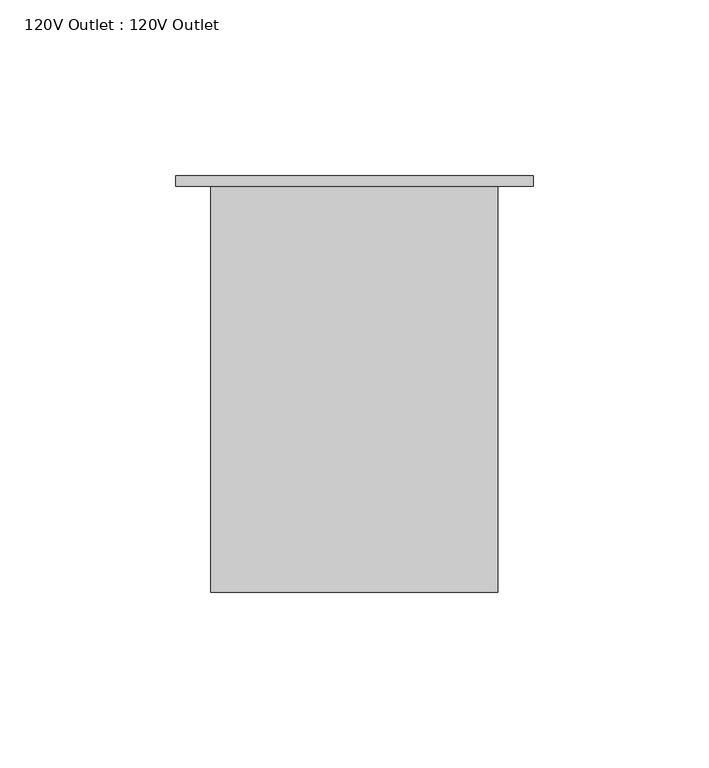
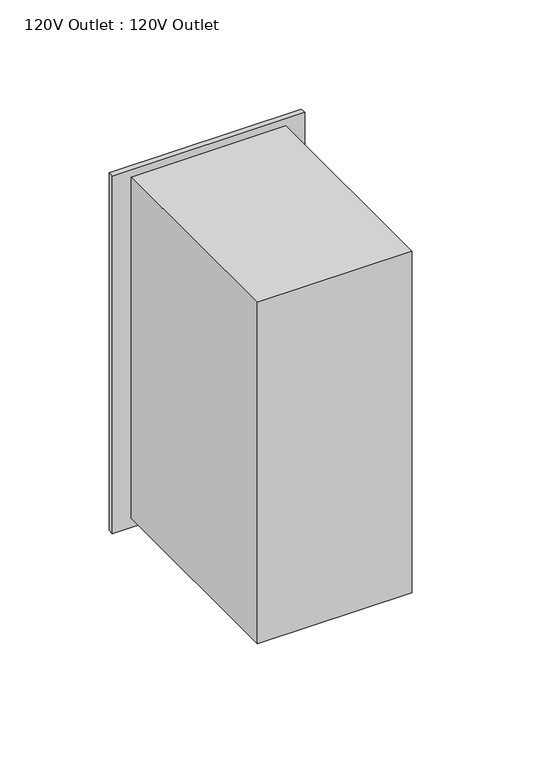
"""IFC4 building model written with IfcOpenShell, lengths in millimetres: proxy geometry, 120V Outlet : 120V Outlet."""

from ifc_helpers import new_model, si_unit, point, frame, frame_2d, origin, place, context, project, spatial, polyline, circle_curve, trimmed, segment, composite_curve, outline, extrude, source, transform, mapped, element, save


def proxy_120v_outlet_120v_outlet_0315f664(model_context):
    return source(origin(), model_context, "Body", "SweptSolid", [
        extrude(outline(polyline([(40.8, 58.2000269), (-40.8, 58.2000269), (-40.8, 173.6), (40.8, 173.6), (40.8, 58.2000269)])), frame((0.0, 0.0, 1887.0755609), z_axis=(0.0, 0.0, 1.0), x_axis=(1.0, 0.0, 0.0)), (0.0, 0.0, 1.0), 190.9390479),
        extrude(outline(polyline([(2082.0755609, -50.8), (1882.0755609, -50.8), (1882.0755609, 50.8), (2082.0755609, 50.8), (2082.0755609, -50.8)]), holes=[polyline([(2036.2177863, 19.9845665), (2036.2177863, 24.9845665), (2016.2177863, 24.9845665), (2016.2177863, 19.9845665), (2036.2177863, 19.9845665)]), polyline([(2036.2177863, -22.7879151), (2036.2177863, -17.6387853), (2016.2177863, -17.6387853), (2016.2177863, -22.7879151), (2036.2177863, -22.7879151)]), composite_curve([segment(trimmed(circle_curve(frame_2d((2059.9609957, 0.0)), 6.8655063), [point((2059.9609957, 6.8655063))], [point((2059.9609957, -6.8655063))], True, "CARTESIAN"), True, "CONTINUOUS"), segment(trimmed(circle_curve(frame_2d((2059.9609957, 0.0)), 6.8655063), [point((2059.9609957, -6.8655063))], [point((2059.9609957, 6.8655063))], True, "CARTESIAN"), True, "CONTINUOUS")], self_intersect=False), polyline([(1936.2177863, 19.9845665), (1936.2177863, 24.9845665), (1916.2177863, 24.9845665), (1916.2177863, 19.9845665), (1936.2177863, 19.9845665)]), polyline([(1936.2177863, -22.7879151), (1936.2177863, -17.6387853), (1916.2177863, -17.6387853), (1916.2177863, -22.7879151), (1936.2177863, -22.7879151)]), composite_curve([segment(trimmed(circle_curve(frame_2d((1959.9609957, 0.0)), 6.8655063), [point((1959.9609957, 6.8655063))], [point((1959.9609957, -6.8655063))], True, "CARTESIAN"), True, "CONTINUOUS"), segment(trimmed(circle_curve(frame_2d((1959.9609957, 0.0)), 6.8655063), [point((1959.9609957, -6.8655063))], [point((1959.9609957, 6.8655063))], True, "CARTESIAN"), True, "CONTINUOUS")], self_intersect=False)]), frame((0.0, 173.6, 0.0), z_axis=(0.0, 1.0, 0.0), x_axis=(0.0, 0.0, 1.0)), (0.0, 0.0, 1.0), 3.0),
    ])


if __name__ == "__main__":
    model = new_model("IFC4")
    model_context = context("Model", 3, world=origin())
    ifc_project = project(units=[si_unit("LENGTHUNIT", "METRE", prefix="MILLI")], contexts=[model_context])
    site = spatial("IfcSite", under=ifc_project)
    building = spatial("IfcBuilding", under=site)
    placement = place(None, origin())
    proxy_120v_outlet_120v_outlet_shape = proxy_120v_outlet_120v_outlet_0315f664(model_context)
    element("IfcBuildingElementProxy", 1, Name="120V Outlet : 120V Outlet", ObjectType="120V Outlet : 120V Outlet", at=placement, inside=building, context=model_context, shape_type="MappedRepresentation", body=[
        mapped(proxy_120v_outlet_120v_outlet_shape, transform((0.0, 0.0, 0.0), x_axis=(1.0, 0.0, 0.0), y_axis=(0.0, 1.0, 0.0), z_axis=(0.0, 0.0, 1.0))),
    ])
    save(model, "model.ifc")
